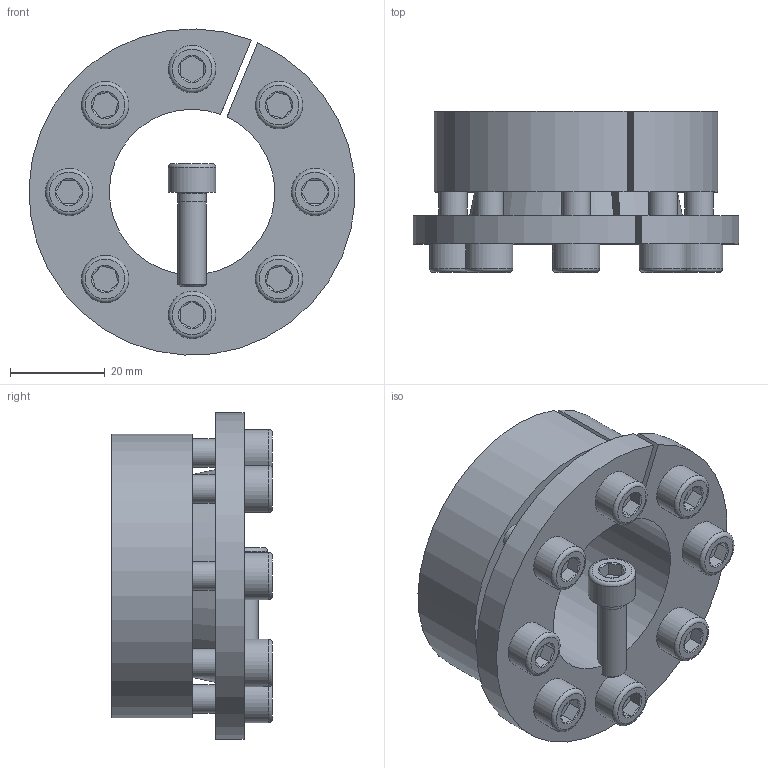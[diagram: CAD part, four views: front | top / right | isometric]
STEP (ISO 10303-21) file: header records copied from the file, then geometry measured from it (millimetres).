
FILE_DESCRIPTION( ( 'Unknown' ), '1' );
FILE_NAME( 'C:/Dokumente und Einstellungen/Sven/Desktop/homepage/cad - homepage/KBS16/KBS 16 - 35 x 60.stp', 'Unknown', ( 'Unknown' ), ( 'Unknown' ), 'XStep 1.0', 'Unknown', ' ' );
FILE_SCHEMA( ( 'automotive_design' ) );
Length unit declared in the file: millimetre
Products named in the file (3): Assem1; KBS 16 - 35 x 60; ISO EN DIN 4762 M6x20
Bounding box: 68.92 x 34 x 68.95 mm (x, y, z)
Volume: 99049.9 mm3; surface area: 46191.1 mm2
Topology: 11 solids, 11 shells, 281 faces, 557 edges, 334 vertices
Faces by surface type: plane 122, cylinder 74, cone 67, torus 18
Full cylindrical faces by diameter (mm): 5 x9, 6 x50, 10 x9
Entity records: 1798 total; most frequent: CARTESIAN_POINT 293, DIRECTION 272, ORIENTED_EDGE 194, AXIS2_PLACEMENT_3D 122, EDGE_LOOP 112, EDGE_CURVE 97, FACE_OUTER_BOUND 75, VERTEX_POINT 75
